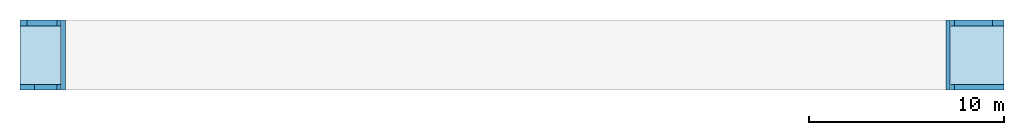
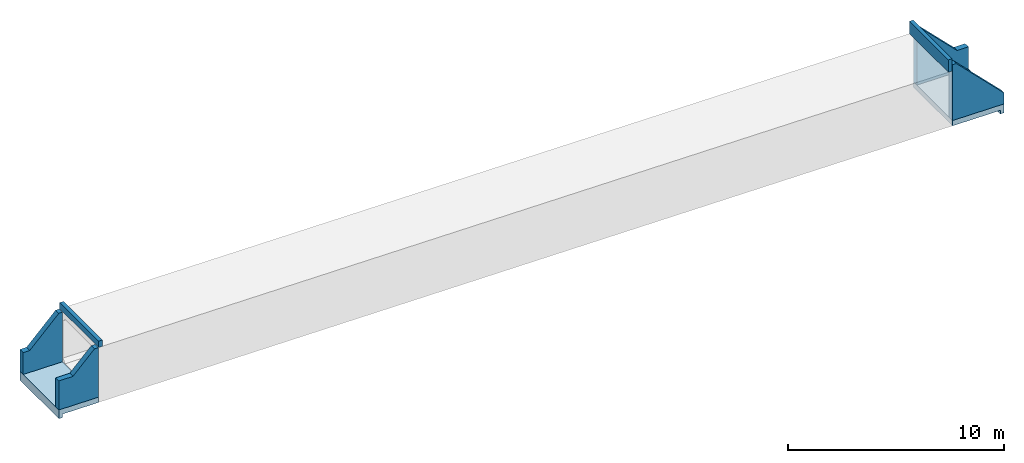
# One storey, part 1 of 2: 8 slabs.
"""IFC2X3 building model written with IfcOpenShell, lengths in metres."""

from ifc_helpers import new_model, entity, si_unit, converted_unit, derived_unit, direction, frame, origin, place, context, subcontext, project, spatial, polyline, outline, extrude, material, type_object, element, save


model = new_model("IFC2X3")

# Units and contexts
model_context = context("Model", 3, precision=1e-05, world=origin(), true_north=direction((6.12303176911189e-17, 1.0)))
body_context = subcontext(model_context, "Body", "Model", "MODEL_VIEW")
ifc_project = project(units=[si_unit("LENGTHUNIT", "METRE"), si_unit("AREAUNIT", "SQUARE_METRE"), si_unit("VOLUMEUNIT", "CUBIC_METRE"), converted_unit("PLANEANGLEUNIT", "DEGREE", entity("IfcRatioMeasure", 0.0174532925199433), si_unit("PLANEANGLEUNIT", "RADIAN"), dimensions=[0, 0, 0, 0, 0, 0, 0]), si_unit("MASSUNIT", "GRAM", prefix="KILO"), derived_unit("MASSDENSITYUNIT", [(si_unit("MASSUNIT", "GRAM", prefix="KILO"), 1), (si_unit("LENGTHUNIT", "METRE"), -3)]), derived_unit("MOMENTOFINERTIAUNIT", [(si_unit("LENGTHUNIT", "METRE"), 4)]), si_unit("TIMEUNIT", "SECOND"), si_unit("FREQUENCYUNIT", "HERTZ"), si_unit("THERMODYNAMICTEMPERATUREUNIT", "DEGREE_CELSIUS"), derived_unit("THERMALTRANSMITTANCEUNIT", [(si_unit("MASSUNIT", "GRAM", prefix="KILO"), 1), (si_unit("THERMODYNAMICTEMPERATUREUNIT", "KELVIN"), -1), (si_unit("TIMEUNIT", "SECOND"), -3)]), derived_unit("VOLUMETRICFLOWRATEUNIT", [(si_unit("LENGTHUNIT", "METRE"), 3), (si_unit("TIMEUNIT", "SECOND"), -1)]), si_unit("ELECTRICCURRENTUNIT", "AMPERE"), si_unit("ELECTRICVOLTAGEUNIT", "VOLT"), si_unit("POWERUNIT", "WATT"), si_unit("FORCEUNIT", "NEWTON", prefix="KILO"), si_unit("ILLUMINANCEUNIT", "LUX"), si_unit("LUMINOUSFLUXUNIT", "LUMEN"), si_unit("LUMINOUSINTENSITYUNIT", "CANDELA"), derived_unit("USERDEFINED", [(si_unit("MASSUNIT", "GRAM", prefix="KILO"), -1), (si_unit("LENGTHUNIT", "METRE"), -2), (si_unit("TIMEUNIT", "SECOND"), 3), (si_unit("LUMINOUSFLUXUNIT", "LUMEN"), 1)]), derived_unit("LINEARVELOCITYUNIT", [(si_unit("LENGTHUNIT", "METRE"), 1), (si_unit("TIMEUNIT", "SECOND"), -1)]), si_unit("PRESSUREUNIT", "PASCAL"), derived_unit("USERDEFINED", [(si_unit("LENGTHUNIT", "METRE"), -2), (si_unit("MASSUNIT", "GRAM", prefix="KILO"), 1), (si_unit("TIMEUNIT", "SECOND"), -2)]), derived_unit("LINEARFORCEUNIT", [(si_unit("MASSUNIT", "GRAM", prefix="KILO"), 1), (si_unit("LENGTHUNIT", "METRE"), 1), (si_unit("TIMEUNIT", "SECOND"), -2), (si_unit("LENGTHUNIT", "METRE"), -1)]), derived_unit("PLANARFORCEUNIT", [(si_unit("MASSUNIT", "GRAM", prefix="KILO"), 1), (si_unit("LENGTHUNIT", "METRE"), 1), (si_unit("TIMEUNIT", "SECOND"), -2), (si_unit("LENGTHUNIT", "METRE"), -2)])], contexts=[model_context])

# Site, building, storey
site_placement = place(None, origin())
site = spatial("IfcSite", under=ifc_project, at=site_placement, Name="Default", CompositionType="ELEMENT")
building_placement = place(site_placement, origin())
building = spatial("IfcBuilding", under=site, at=building_placement, CompositionType="ELEMENT")
storey_placement = place(building_placement, frame((0.0, 0.0, 153.0)))
storey = spatial("IfcBuildingStorey", under=building, at=storey_placement, Name="Niveau 153", CompositionType="ELEMENT", Elevation=153.0)

# Slabs
ifc_material = material(Name="Béton, C30/37")
slab_type_1 = type_object("IfcSlabType", Name="Radier Amont:Radier Amont", PredefinedType="BASESLAB", material=ifc_material)
slab_1_placement = place(storey_placement, frame((-20.82, -1.79999999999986, 0.474379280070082)))
element("IfcSlab", 1, at=slab_1_placement, inside=storey, type_object=slab_type_1, Name="Radier Amont:Radier Amont", ObjectType="Radier Amont:Radier Amont", PredefinedType="BASESLAB", context=body_context, shape_type="SweptSolid", body=[
    extrude(outline(polyline([(-0.768747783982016, -0.266401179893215), (1.33131489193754, -0.266401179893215), (1.33363264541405, 0.0335898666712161), (-0.566424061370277, 0.0335898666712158), (-0.564890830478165, 0.232038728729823), (-0.764884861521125, 0.233583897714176), (-0.768747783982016, -0.266401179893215)])), frame((0.76666666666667, 0.0, 0.227667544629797), z_axis=(0.0, 1.0, 0.0), x_axis=(0.999970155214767, 0.0, -0.00772584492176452)), (0.0, 0.0, 1.0), 3.6),
])
slab_type_2 = type_object("IfcSlabType", Name="Radier Aval:Radier Aval", PredefinedType="BASESLAB", material=ifc_material)
slab_2_placement = place(storey_placement, frame((26.88, -1.80000000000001, 0.0845987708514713)))
element("IfcSlab", 2, at=slab_2_placement, inside=storey, type_object=slab_type_2, Name="Radier Aval:Radier Aval", ObjectType="Radier Aval:Radier Aval", PredefinedType="BASESLAB", context=body_context, shape_type="SweptSolid", body=[
    extrude(outline(polyline([(-1.76878160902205, -0.26691623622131), (0.981300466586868, -0.26691623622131), (0.985163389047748, 0.233068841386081), (0.785169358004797, 0.234614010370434), (0.783612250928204, 0.0330748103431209), (-1.76646385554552, 0.0330748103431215), (-1.76878160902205, -0.26691623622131)])), frame((1.76666666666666, 0.0, 0.240673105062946), z_axis=(0.0, 1.0, 0.0), x_axis=(0.999970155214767, 0.0, -0.00772584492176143)), (0.0, 0.0, 1.0), 3.6),
])
slab_type_3 = type_object("IfcSlabType", Name="Longrine Amont:Longrine Amont", PredefinedType="BASESLAB", material=ifc_material)
slab_3_placement = place(storey_placement, frame((-18.7, -1.79999999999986, 3.75645478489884)))
element("IfcSlab", 3, at=slab_3_placement, inside=storey, type_object=slab_type_3, Name="Longrine Amont:Longrine Amont", ObjectType="Longrine Amont:Longrine Amont", PredefinedType="BASESLAB", context=body_context, shape_type="SweptSolid", body=[
    extrude(outline(polyline([(-0.100000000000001, -0.175386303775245), (0.0999999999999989, -0.175386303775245), (0.0999999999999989, 0.176158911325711), (-0.100000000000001, 0.174613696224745), (-0.100000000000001, -0.175386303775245)])), frame((0.100000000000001, 0.0, 0.176158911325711), z_axis=(0.0, 1.0, 0.0), x_axis=(1.0, 0.0, 0.0)), (0.0, 0.0, 1.0), 3.6),
])
slab_type_4 = type_object("IfcSlabType", Name="Longrine Aval:Longrine Aval", PredefinedType="BASESLAB", material=ifc_material)
slab_4_placement = place(storey_placement, frame((26.66, -1.8, 3.40599999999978)))
element("IfcSlab", 4, at=slab_4_placement, inside=storey, type_object=slab_type_4, Name="Longrine Aval:Longrine Aval", ObjectType="Longrine Aval:Longrine Aval", PredefinedType="BASESLAB", context=body_context, shape_type="SweptSolid", body=[
    extrude(outline(polyline([(-0.34961369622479, -0.100000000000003), (0.350386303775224, -0.100000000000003), (0.348841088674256, 0.100000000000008), (-0.349613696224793, 0.0999999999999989), (-0.34961369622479, -0.100000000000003)])), frame((0.100000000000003, 0.0, 0.350386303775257), z_axis=(0.0, 1.0, 0.0), x_axis=(0.0, 0.0, -1.0)), (0.0, 0.0, 1.0), 3.6),
])
slab_type_5 = type_object("IfcSlabType", Name="Mur Amont:Mur Amont", PredefinedType="BASESLAB", material=ifc_material)
slab_5_placement = place(storey_placement, frame((-20.82, -1.79999999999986, 0.958154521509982)))
element("IfcSlab", 5, at=slab_5_placement, inside=storey, type_object=slab_type_5, Name="Mur Amont:Mur Amont", ObjectType="Mur Amont:Mur Amont", PredefinedType="BASESLAB", context=body_context, shape_type="SweptSolid", body=[
    extrude(outline(polyline([(-1.31391103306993, -0.958333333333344), (1.48593444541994, -0.958333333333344), (1.46970968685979, 1.14166666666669), (-0.163911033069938, 1.14166666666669), (-0.163911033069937, 0.391666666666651), (-1.31391103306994, -0.758333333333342), (-1.31391103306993, -0.958333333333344)])), frame((1.14166666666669, 0.0, 1.48593444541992), z_axis=(0.0, 1.0, 0.0), x_axis=(0.0, 0.0, -1.0)), (0.0, 0.0, 1.0), 0.3),
])
slab_type_6 = type_object("IfcSlabType", Name="Mur 2 Amont:Mur 2 Amont", PredefinedType="BASESLAB", material=ifc_material)
slab_6_placement = place(storey_placement, frame((-20.82, 1.50000000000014, 0.958154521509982)))
element("IfcSlab", 6, at=slab_6_placement, inside=storey, type_object=slab_type_6, Name="Mur 2 Amont:Mur 2 Amont", ObjectType="Mur 2 Amont:Mur 2 Amont", PredefinedType="BASESLAB", context=body_context, shape_type="SweptSolid", body=[
    extrude(outline(polyline([(-1.03541939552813, -1.34464175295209), (1.06464328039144, -1.34464175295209), (1.07417404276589, -0.111057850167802), (0.724184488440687, -0.108353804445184), (-0.813794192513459, 1.45357499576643), (-1.01378822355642, 1.45512016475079), (-1.03541939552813, -1.34464175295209)])), frame((1.07500000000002, 0.0, 1.35260111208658), z_axis=(0.0, 1.0, 0.0), x_axis=(-0.999970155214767, 0.0, 0.00772584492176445)), (0.0, 0.0, 1.0), 0.3),
])
slab_type_7 = type_object("IfcSlabType", Name="Mur Sud Aval:Mur Sud Aval", PredefinedType="BASESLAB", material=ifc_material)
slab_7_placement = place(storey_placement, frame((26.88, -1.80000000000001, 0.584598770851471)))
element("IfcSlab", 7, at=slab_7_placement, inside=storey, type_object=slab_type_7, Name="Mur Sud Aval:Mur Sud Aval", ObjectType="Mur Sud Aval:Mur Sud Aval", PredefinedType="BASESLAB", context=body_context, shape_type="SweptSolid", body=[
    extrude(outline(polyline([(-1.62074493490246, -1.38451706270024), (1.12933714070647, -1.38451706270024), (1.15367355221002, 1.76538892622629), (0.953679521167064, 1.76693409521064), (-1.61594527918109, -0.763288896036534), (-1.62074493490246, -1.38451706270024)])), frame((1.14000000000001, 0.0, 1.39699736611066), z_axis=(0.0, 1.0, 0.0), x_axis=(-0.999970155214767, 0.0, 0.00772584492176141)), (0.0, 0.0, 1.0), 0.3),
])
slab_type_8 = type_object("IfcSlabType", Name="Mur Nord Aval:Mur Nord Aval", PredefinedType="BASESLAB", material=ifc_material)
slab_8_placement = place(storey_placement, frame((26.88, 1.49999999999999, 0.584598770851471)))
element("IfcSlab", 8, at=slab_8_placement, inside=storey, type_object=slab_type_8, Name="Mur Nord Aval:Mur Nord Aval", ObjectType="Mur Nord Aval:Mur Nord Aval", PredefinedType="BASESLAB", context=body_context, shape_type="SweptSolid", body=[
    extrude(outline(polyline([(-1.45296290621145, -1.45652369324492), (1.29711916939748, -1.45652369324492), (1.32145558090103, 1.69338229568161), (1.12146154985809, 1.69492746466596), (-0.843545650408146, -0.239948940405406), (-1.44352774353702, -0.235313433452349), (-1.45296290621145, -1.45652369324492)])), frame((1.30833333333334, 0.0, 1.46770558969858), z_axis=(0.0, 1.0, 0.0), x_axis=(-0.999970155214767, 0.0, 0.00772584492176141)), (0.0, 0.0, 1.0), 0.3),
])

save(model, "model.ifc")
